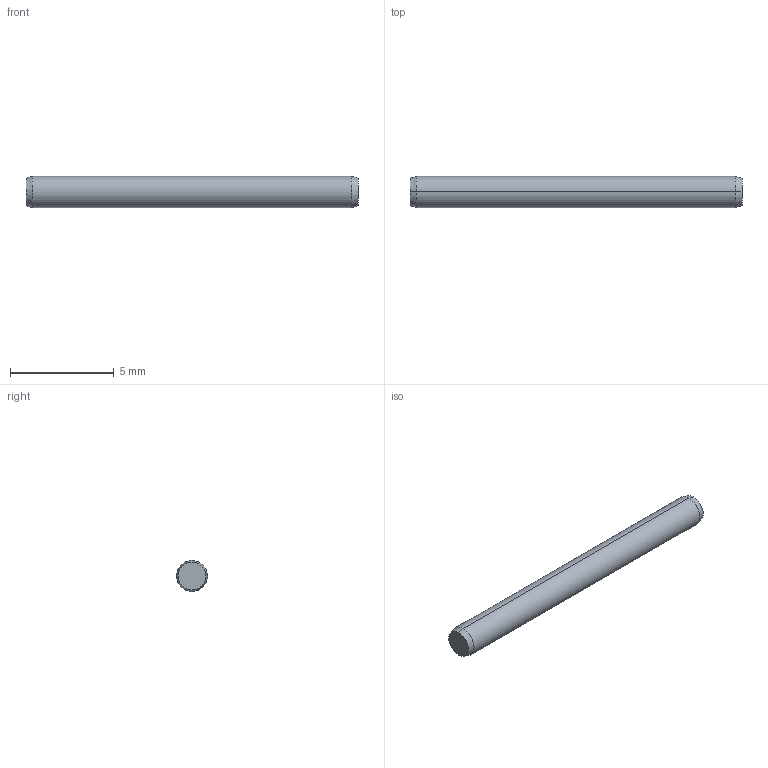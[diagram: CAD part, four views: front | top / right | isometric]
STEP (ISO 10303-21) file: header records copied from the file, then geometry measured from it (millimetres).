
FILE_DESCRIPTION (( 'STEP AP203' ), '1' );
FILE_NAME ('P1206.015-016.step', '2017-06-14T07:54:12', ( 'User' ), ( '' ), 'SwSTEP 2.0', 'SolidWorks 2009', '' );
FILE_SCHEMA (( 'CONFIG_CONTROL_DESIGN' ));
Length unit declared in the file: millimetre
Products named in the file (1): P1206.015-016
Bounding box: 16 x 1.5 x 1.5 mm (x, y, z)
Volume: 28.2 mm3; surface area: 78.2 mm2
Topology: 1 solids, 1 shells, 8 faces, 14 edges, 8 vertices
Faces by surface type: cone 4, cylinder 2, plane 2
Entity records: 271 total; most frequent: DIRECTION 40, CARTESIAN_POINT 31, ORIENTED_EDGE 28, AXIS2_PLACEMENT_3D 17, EDGE_CURVE 14, ADVANCED_FACE 8, EDGE_LOOP 8, VERTEX_POINT 8
